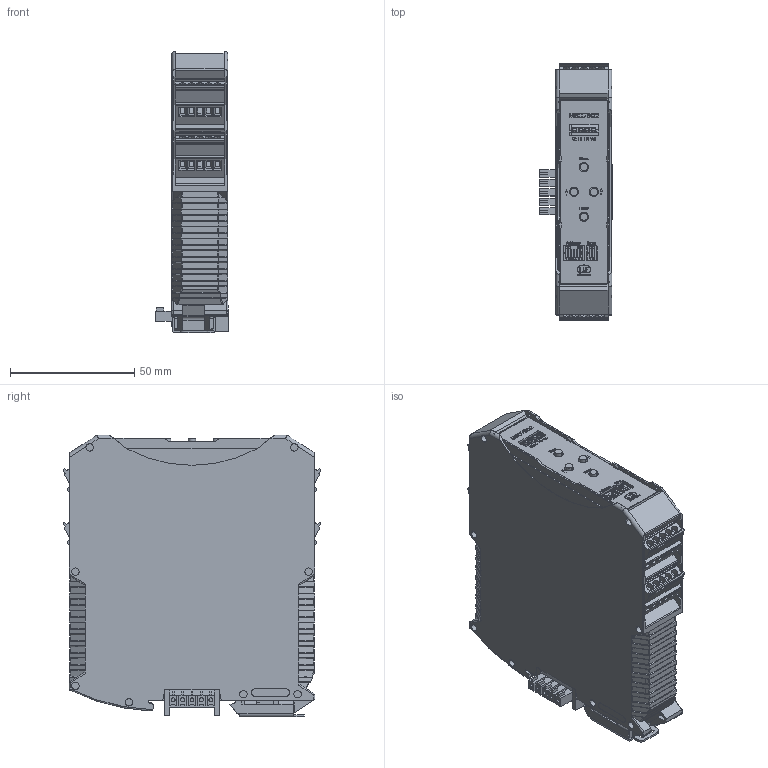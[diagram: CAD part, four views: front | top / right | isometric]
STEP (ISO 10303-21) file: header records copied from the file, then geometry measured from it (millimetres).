
FILE_DESCRIPTION((''),'2;1');
FILE_NAME('0000217790_ASM','2020-11-11T15:33:55',('11000804'),(''),'CREO PARAMETRIC BY PTC INC, 2019030','CREO PARAMETRIC BY PTC INC, 2019030','');
FILE_SCHEMA(('AUTOMOTIVE_DESIGN { 1 0 10303 214 1 1 1 1 }'));
Products named in the file (17): 2713638_AF0; 2278416_AF0; 2278416_AF1; 2278393_AF0; 2278393_AF1; PXC_2278076_00_ME-BUS-FE-CONTAC; 0390092-02_BRD_AF0; 0000217854_AF0; 0000217860_AF0; 0000217860_AF1; 0000217860_AF2; 0000217860_AF3; 416131160802_REV1__AF0; 416131160806_REV1__AF0; 0000217852_AF0_ASM; PXC_2201732_02_ME-22-5-TBUS-1-5_AF0; 0000217790_ASM
Assembly tree (16 placements, depth 3):
  0000217790_ASM
    2713638_AF0
    2278416_AF0
    2278416_AF1
    2278393_AF0
    2278393_AF1
    PXC_2278076_00_ME-BUS-FE-CONTAC
    0000217852_AF0_ASM
      0390092-02_BRD_AF0
      0000217854_AF0
      0000217860_AF0
      0000217860_AF1
      0000217860_AF2
      0000217860_AF3
      416131160802_REV1__AF0
      416131160806_REV1__AF0
    PXC_2201732_02_ME-22-5-TBUS-1-5_AF0
Bounding box: 29.2 x 103.73 x 113.65 mm (x, y, z)
Volume: 51490.7 mm3; surface area: 73749.9 mm2
Topology: 15 solids, 21 shells, 4189 faces, 11452 edges, 7513 vertices
Faces by surface type: plane 3450, cylinder 606, extrusion 94, cone 23, sphere 8, bspline 6, torus 2
Entity records: 198022 total; most frequent: CARTESIAN_POINT 45807, ORIENTED_EDGE 22888, DIRECTION 20325, EDGE_CURVE 11444, PRESENTATION_STYLE_ASSIGNMENT 10905, STYLED_ITEM 10503, VECTOR 9875, LINE 9781
